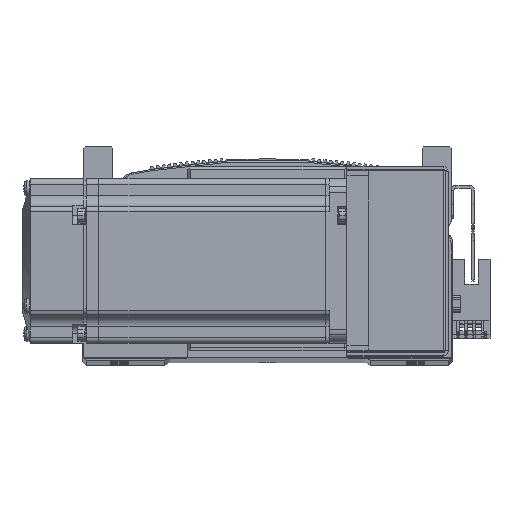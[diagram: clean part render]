
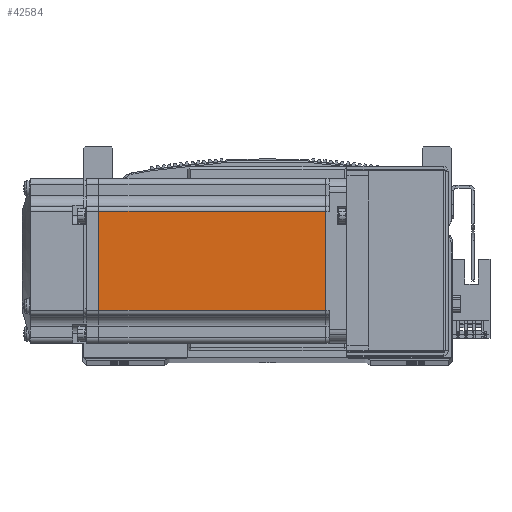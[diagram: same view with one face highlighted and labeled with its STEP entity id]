
A CAD part, top view. The second image highlights one B-rep face of the part: STEP entity #42584.
In plain terms, the highlighted planar face has unit normal (0, 0, 1) as drawn and (0, -1, 0) by its records, which use the part's own axes.
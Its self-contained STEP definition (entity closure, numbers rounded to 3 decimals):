
#3438 = EDGE_LOOP ( 'NONE', ( #57223, #57351, #57321, #57361 ) ) ;
#17747 = VERTEX_POINT ( 'NONE', #42394 ) ;
#17758 = VERTEX_POINT ( 'NONE', #42379 ) ;
#17788 = VERTEX_POINT ( 'NONE', #40723 ) ;
#17791 = VERTEX_POINT ( 'NONE', #40687 ) ;
#30077 = PLANE ( 'NONE',  #35543 ) ;
#30090 = CARTESIAN_POINT ( 'NONE',  ( -6.5, -30., -25. ) ) ;
#30303 = DIRECTION ( 'NONE',  ( 0., -1., 0. ) ) ;
#30439 = DIRECTION ( 'NONE',  ( 0., 0., -1. ) ) ;
#35543 = AXIS2_PLACEMENT_3D ( 'NONE', #30090, #30303, #30439 ) ;
#40687 = CARTESIAN_POINT ( 'NONE',  ( -90.45, -30., -18. ) ) ;
#40723 = CARTESIAN_POINT ( 'NONE',  ( -7.75, -30., -18. ) ) ;
#42379 = CARTESIAN_POINT ( 'NONE',  ( -90.45, -30., 18. ) ) ;
#42394 = CARTESIAN_POINT ( 'NONE',  ( -7.75, -30., 18. ) ) ;
#42584 = ADVANCED_FACE ( 'NONE', ( #53407 ), #30077, .T. ) ;
#51178 = DIRECTION ( 'NONE',  ( 0., 0., -1. ) ) ;
#51184 = CARTESIAN_POINT ( 'NONE',  ( -7.75, -30., 0. ) ) ;
#51186 = CARTESIAN_POINT ( 'NONE',  ( -6.5, -30., -18. ) ) ;
#51188 = DIRECTION ( 'NONE',  ( -1., 0., 0. ) ) ;
#51189 = DIRECTION ( 'NONE',  ( 0., 0., -1. ) ) ;
#51201 = CARTESIAN_POINT ( 'NONE',  ( -90.45, -30., 0. ) ) ;
#51250 = CARTESIAN_POINT ( 'NONE',  ( -6.5, -30., 18. ) ) ;
#51285 = DIRECTION ( 'NONE',  ( -1., 0., 0. ) ) ;
#53407 = FACE_OUTER_BOUND ( 'NONE', #3438, .T. ) ;
#57223 = ORIENTED_EDGE ( 'NONE', *, *, #69058, .F. ) ;
#57321 = ORIENTED_EDGE ( 'NONE', *, *, #69048, .T. ) ;
#57351 = ORIENTED_EDGE ( 'NONE', *, *, #69082, .T. ) ;
#57361 = ORIENTED_EDGE ( 'NONE', *, *, #69057, .F. ) ;
#58345 = VECTOR ( 'NONE', #51178, 1000. ) ;
#58354 = LINE ( 'NONE', #51201, #58345 ) ;
#58355 = LINE ( 'NONE', #51184, #58364 ) ;
#58364 = VECTOR ( 'NONE', #51189, 1000. ) ;
#58369 = VECTOR ( 'NONE', #51188, 1000. ) ;
#58386 = LINE ( 'NONE', #51186, #58369 ) ;
#58428 = VECTOR ( 'NONE', #51285, 1000. ) ;
#58457 = LINE ( 'NONE', #51250, #58428 ) ;
#69048 = EDGE_CURVE ( 'NONE', #17758, #17791, #58354, .T. ) ;
#69057 = EDGE_CURVE ( 'NONE', #17788, #17791, #58386, .T. ) ;
#69058 = EDGE_CURVE ( 'NONE', #17747, #17788, #58355, .T. ) ;
#69082 = EDGE_CURVE ( 'NONE', #17747, #17758, #58457, .T. ) ;
